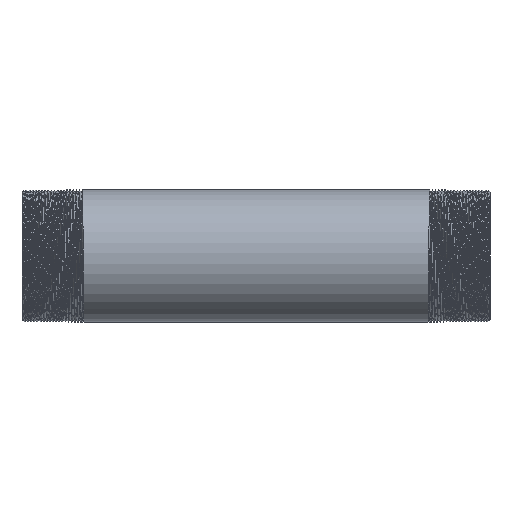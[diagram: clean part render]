
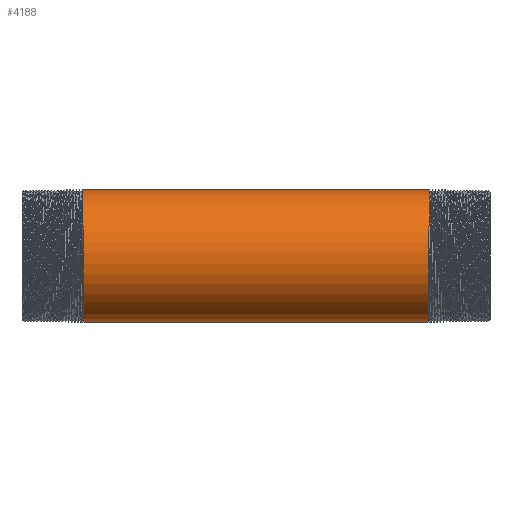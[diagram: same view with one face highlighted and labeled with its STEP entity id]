
A CAD part, front view. The second image highlights one B-rep face of the part: STEP entity #4188.
In plain terms, the highlighted cylindrical face has radius 21.2 mm (diameter 42.4 mm), a partial arc.
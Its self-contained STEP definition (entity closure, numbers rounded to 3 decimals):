
#3 = ORIENTED_EDGE ( 'NONE', *, *, #5487, .T. ) ;
#574 =( BOUNDED_CURVE ( )  B_SPLINE_CURVE ( 2, ( #17346, #3960, #14684, #2716, #7957, #4142, #6625, #9378, #9557 ),
 .UNSPECIFIED., .F., .F. ) 
 B_SPLINE_CURVE_WITH_KNOTS ( ( 3, 2, 2, 2, 3 ),
 ( 0., 0.005, 0.01, 0.016, 0.021 ),
 .UNSPECIFIED. ) 
 CURVE ( )  GEOMETRIC_REPRESENTATION_ITEM ( )  RATIONAL_B_SPLINE_CURVE ( ( 1., 0.924, 1., 0.924, 1., 0.924, 1., 0.924, 1. ) ) 
 REPRESENTATION_ITEM ( '' )  );
#2371 = CARTESIAN_POINT ( 'NONE',  ( 55.563, -8.781, 21.2 ) ) ;
#2462 = CARTESIAN_POINT ( 'NONE',  ( -55.625, 0., 21.2 ) ) ;
#2716 = CARTESIAN_POINT ( 'NONE',  ( -55.313, -21.2, -8.781 ) ) ;
#3249 = CARTESIAN_POINT ( 'NONE',  ( 55.625, 0., 21.2 ) ) ;
#3960 = CARTESIAN_POINT ( 'NONE',  ( -55.188, -8.781, -21.2 ) ) ;
#4142 = CARTESIAN_POINT ( 'NONE',  ( -55.438, -21.2, 8.781 ) ) ;
#4188 = ADVANCED_FACE ( 'NONE', ( #10471 ), #8719, .T. ) ;
#4849 =( BOUNDED_CURVE ( )  B_SPLINE_CURVE ( 2, ( #14430, #14601, #15762, #10359, #5117, #7779, #11772, #2371, #5207 ),
 .UNSPECIFIED., .F., .F. ) 
 B_SPLINE_CURVE_WITH_KNOTS ( ( 3, 2, 2, 2, 3 ),
 ( 0., 0.005, 0.01, 0.016, 0.021 ),
 .UNSPECIFIED. ) 
 CURVE ( )  GEOMETRIC_REPRESENTATION_ITEM ( )  RATIONAL_B_SPLINE_CURVE ( ( 1., 0.924, 1., 0.924, 1., 0.924, 1., 0.924, 1. ) ) 
 REPRESENTATION_ITEM ( '' )  );
#5117 = CARTESIAN_POINT ( 'NONE',  ( 55.375, -21.2, 0. ) ) ;
#5207 = CARTESIAN_POINT ( 'NONE',  ( 55.625, 0., 21.2 ) ) ;
#5222 = EDGE_CURVE ( 'NONE', #15045, #13759, #6229, .T. ) ;
#5487 = EDGE_CURVE ( 'NONE', #8629, #10567, #11634, .T. ) ;
#6229 = LINE ( 'NONE', #14206, #15260 ) ;
#6323 = EDGE_LOOP ( 'NONE', ( #14798, #11793, #3, #17483 ) ) ;
#6625 = CARTESIAN_POINT ( 'NONE',  ( -55.5, -14.991, 14.991 ) ) ;
#6976 = CARTESIAN_POINT ( 'NONE',  ( 55.125, 0., -21.2 ) ) ;
#7779 = CARTESIAN_POINT ( 'NONE',  ( 55.438, -21.2, 8.781 ) ) ;
#7829 = CARTESIAN_POINT ( 'NONE',  ( -55.125, 0., -21.2 ) ) ;
#7957 = CARTESIAN_POINT ( 'NONE',  ( -55.375, -21.2, 0. ) ) ;
#8629 = VERTEX_POINT ( 'NONE', #3249 ) ;
#8719 = CYLINDRICAL_SURFACE ( 'NONE', #16970, 21.2 ) ;
#9378 = CARTESIAN_POINT ( 'NONE',  ( -55.563, -8.781, 21.2 ) ) ;
#9557 = CARTESIAN_POINT ( 'NONE',  ( -55.625, 0., 21.2 ) ) ;
#9642 = VECTOR ( 'NONE', #17130, 1000. ) ;
#10222 = DIRECTION ( 'NONE',  ( -1., 0., 0. ) ) ;
#10359 = CARTESIAN_POINT ( 'NONE',  ( 55.313, -21.2, -8.781 ) ) ;
#10462 = EDGE_CURVE ( 'NONE', #15045, #8629, #4849, .T. ) ;
#10471 = FACE_OUTER_BOUND ( 'NONE', #6323, .T. ) ;
#10567 = VERTEX_POINT ( 'NONE', #2462 ) ;
#11634 = LINE ( 'NONE', #13131, #9642 ) ;
#11772 = CARTESIAN_POINT ( 'NONE',  ( 55.5, -14.991, 14.991 ) ) ;
#11793 = ORIENTED_EDGE ( 'NONE', *, *, #10462, .T. ) ;
#11800 = DIRECTION ( 'NONE',  ( 0., 0., 1. ) ) ;
#13046 = CARTESIAN_POINT ( 'NONE',  ( -149.494, 0., 0. ) ) ;
#13131 = CARTESIAN_POINT ( 'NONE',  ( -149.494, 0., 21.2 ) ) ;
#13214 = DIRECTION ( 'NONE',  ( -1., 0., 0. ) ) ;
#13759 = VERTEX_POINT ( 'NONE', #7829 ) ;
#14206 = CARTESIAN_POINT ( 'NONE',  ( -149.494, 0., -21.2 ) ) ;
#14430 = CARTESIAN_POINT ( 'NONE',  ( 55.125, 0., -21.2 ) ) ;
#14601 = CARTESIAN_POINT ( 'NONE',  ( 55.188, -8.781, -21.2 ) ) ;
#14684 = CARTESIAN_POINT ( 'NONE',  ( -55.25, -14.991, -14.991 ) ) ;
#14798 = ORIENTED_EDGE ( 'NONE', *, *, #5222, .F. ) ;
#15045 = VERTEX_POINT ( 'NONE', #6976 ) ;
#15260 = VECTOR ( 'NONE', #13214, 1000. ) ;
#15714 = EDGE_CURVE ( 'NONE', #13759, #10567, #574, .T. ) ;
#15762 = CARTESIAN_POINT ( 'NONE',  ( 55.25, -14.991, -14.991 ) ) ;
#16970 = AXIS2_PLACEMENT_3D ( 'NONE', #13046, #10222, #11800 ) ;
#17130 = DIRECTION ( 'NONE',  ( -1., 0., 0. ) ) ;
#17346 = CARTESIAN_POINT ( 'NONE',  ( -55.125, 0., -21.2 ) ) ;
#17483 = ORIENTED_EDGE ( 'NONE', *, *, #15714, .F. ) ;
